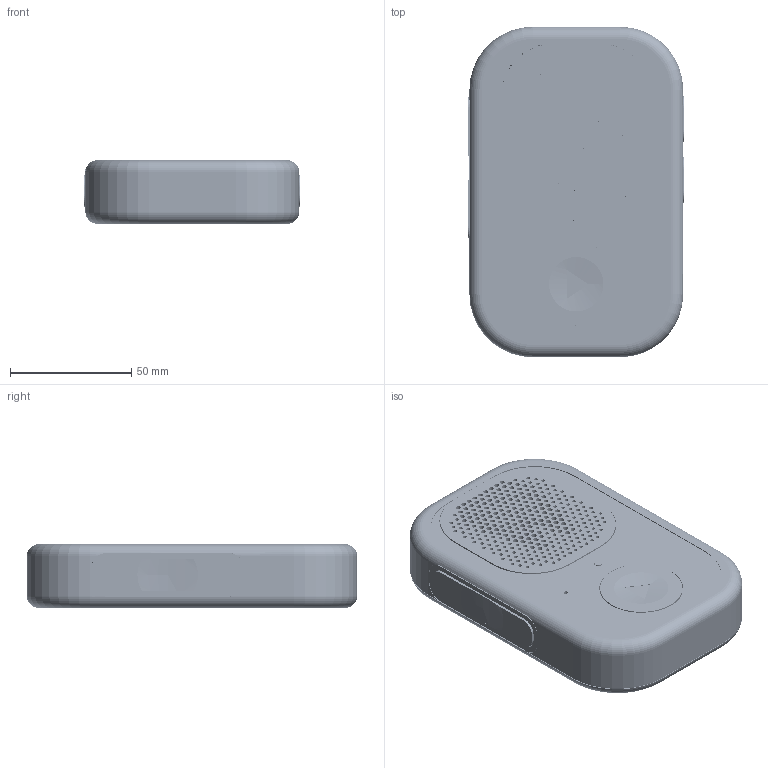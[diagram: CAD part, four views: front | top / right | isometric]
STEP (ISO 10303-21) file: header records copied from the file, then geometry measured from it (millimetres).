
FILE_DESCRIPTION(('Open CASCADE Model'),'2;1');
FILE_NAME('Open CASCADE Shape Model','2026-09-09T11:50:36',('Author'),( 'Open CASCADE'),'Open CASCADE STEP processor 7.7','Open CASCADE 7.7' ,'Unknown');
FILE_SCHEMA(('AUTOMOTIVE_DESIGN { 1 0 10303 214 1 1 1 1 }'));
Length unit declared in the file: millimetre
Products named in the file (124): Walkie_One_5_2_R8_slim_REFERENCE_ASSEMBLY; 01_front_structural_tub; 01_front_structural_tub_part; 02_rear_structural_cover; 02_rear_structural_cover_part; 03_front_perimeter_bumper; 03_front_perimeter_bumper_part; 04_rear_perimeter_bumper; 04_rear_perimeter_bumper_part; 05_perforated_rigid_speaker_panel; 05_perforated_rigid_speaker_panel_part; 07_speaker_edge_cradle; 07_speaker_edge_cradle_part; 08_speaker_front_gasket; 08_speaker_front_gasket_part; 09_battery_tray; 09_battery_tray_part; 10_ptt_key; 10_ptt_key_part; 10_volume_minus_key; 10_volume_minus_key_part; 10_volume_plus_key; 10_volume_plus_key_part; 11_ptt_bumper_collar; 11_ptt_bumper_collar_part; 11_volume_minus_bumper_collar; 11_volume_minus_bumper_collar_part; 11_volume_plus_bumper_collar; 11_volume_plus_bumper_collar_part; 13_circular_play_key; 13_circular_play_key_part; 15_front_switch_holder; 15_front_switch_holder_part; 16_rgb_led_support_ring; 16_rgb_led_support_ring_part; 17_microphone_cradle; 17_microphone_cradle_part; 18_microphone_acoustic_gasket; 18_microphone_acoustic_gasket_part; 19_lte_antenna_seat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
Assembly tree (123 placements, depth 4):
  Walkie_One_5_2_R8_slim_REFERENCE_ASSEMBLY
    Walkie_One_5_2_R8_slim_REFERENCE_ASSEMBLY
      01_front_structural_tub
        01_front_structural_tub_part
      02_rear_structural_cover
        02_rear_structural_cover_part
      03_front_perimeter_bumper
        03_front_perimeter_bumper_part
      04_rear_perimeter_bumper
        04_rear_perimeter_bumper_part
      05_perforated_rigid_speaker_panel
        05_perforated_rigid_speaker_panel_part
      07_speaker_edge_cradle
        07_speaker_edge_cradle_part
      08_speaker_front_gasket
        08_speaker_front_gasket_part
      09_battery_tray
        09_battery_tray_part
      10_ptt_key
        10_ptt_key_part
      10_volume_minus_key
        10_volume_minus_key_part
      10_volume_plus_key
        10_volume_plus_key_part
      11_ptt_bumper_collar
        11_ptt_bumper_collar_part
      11_volume_minus_bumper_collar
        11_volume_minus_bumper_collar_part
      11_volume_plus_bumper_collar
        11_volume_plus_bumper_collar_part
      13_circular_play_key
        13_circular_play_key_part
      15_front_switch_holder
        15_front_switch_holder_part
      16_rgb_led_support_ring
        16_rgb_led_support_ring_part
      17_microphone_cradle
        17_microphone_cradle_part
      18_microphone_acoustic_gasket
        18_microphone_acoustic_gasket_part
      19_lte_antenna_seat
        19_lte_antenna_seat_part
      21_ptt_grip_pad
        21_ptt_grip_pad_part
      21_volume_minus_grip_pad
        21_volume_minus_grip_pad_part
      21_volume_plus_grip_pad
        21_volume_plus_grip_pad_part
      27_offset_status_light_guide
        27_offset_status_light_guide_part
      28_acoustic_mesh
        28_acoustic_mesh_part
      29_microphone_PSA
        29_microphone_PSA_part
      31_play_seat_shim_1
        31_play_seat_shim_1_part
      31_play_seat_shim_2
        31_play_seat_shim_2_part
      32_play_stop_shim
        32_play_stop_shim_part
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Bounding box: 89.16 x 136 x 26.2 mm (x, y, z)
Volume: 120967.3 mm3; surface area: 174188 mm2
Topology: 407 solids, 414 shells, 23003 faces, 48517 edges, 26513 vertices
Faces by surface type: plane 19113, cylinder 2294, bspline 1442, torus 90, cone 32, sphere 32
Full cylindrical faces by diameter (mm): 0.3 x59, 0.375 x1, 0.5 x1, 0.75 x4, 0.813 x5, 0.9 x8, 1.6 x157, 1.7 x10, 1.8 x2, 1.96 x10, 2 x111, 2.2 x62, 2.8 x4, 3 x1, 3.4 x1, 3.5 x2, 3.7 x8, 5 x2, 5.2 x2, 5.3 x1, 5.4 x2, 6.2 x1, 7 x1, 8 x1, 8.4 x1, 34 x1, 34.6 x1, 36.4 x2, 39.6 x1
Entity records: 1272674 total; most frequent: CARTESIAN_POINT 282811, DIRECTION 179582, LINE 125529, VECTOR 125529, ORIENTED_EDGE 96944, PCURVE 96944, DEFINITIONAL_REPRESENTATION 96944, EDGE_CURVE 48472
